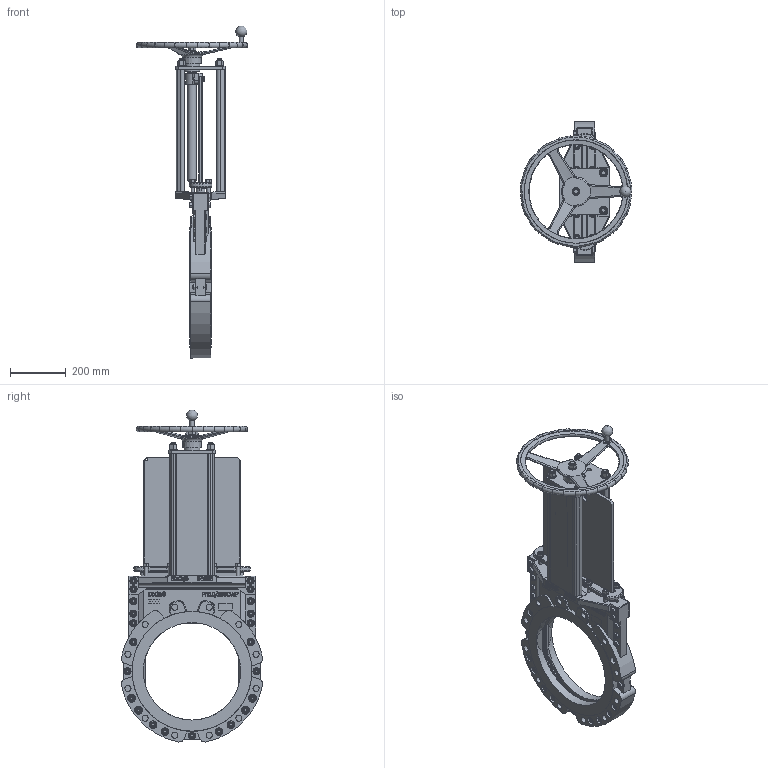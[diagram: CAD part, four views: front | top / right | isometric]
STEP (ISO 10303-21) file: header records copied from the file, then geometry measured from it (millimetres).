
FILE_DESCRIPTION(/* description */ (''),/* implementation_level */ '2;1');
FILE_NAME(/* name */ 'F:\3D Sammanställningar\WB\DN350\WB14E_DN350_ANSI_150_HW.stp',/* time_stamp */ '2021-06-30T11:17:03+02:00',/* author */ ('MATZET'),/* organization */ (''),/* preprocessor_version */ 'ST-DEVELOPER v18',/* originating_system */ 'Autodesk Inventor 2020',/* authorisation */ '');
FILE_SCHEMA (('AUTOMOTIVE_DESIGN { 1 0 10303 214 3 1 1 }'));
Length unit declared in the file: millimetre
Products named in the file (1): WB14E_DN350_ANSI_150_HW_Shrinkwrap_1
Bounding box: 402 x 507.81 x 1192.4 mm (x, y, z)
Volume: 16077131.4 mm3; surface area: 2373216.9 mm2
Topology: 1 solids, 5 shells, 3358 faces, 8645 edges, 5656 vertices
Faces by surface type: plane 1683, bspline 613, cylinder 593, cone 297, torus 135, sphere 37
Full cylindrical faces by diameter (mm): 4.3 x8, 7 x1, 8.5 x1, 10.106 x8, 11 x4, 12 x32, 13 x11, 13.5 x2, 13.835 x4, 15 x1, 16 x15, 16.63 x25, 17 x5, 20 x15, 21.971 x24, 24 x41, 25 x1, 26 x31, 28 x17, 30 x4, 32 x2, 34 x1, 55 x2, 60 x4, 350 x2, 371.391 x1, 430 x2
Entity records: 118741 total; most frequent: CARTESIAN_POINT 39480, ORIENTED_EDGE 17288, DIRECTION 14308, EDGE_CURVE 8644, VERTEX_POINT 5656, AXIS2_PLACEMENT_3D 4990, LINE 4328, VECTOR 4328
